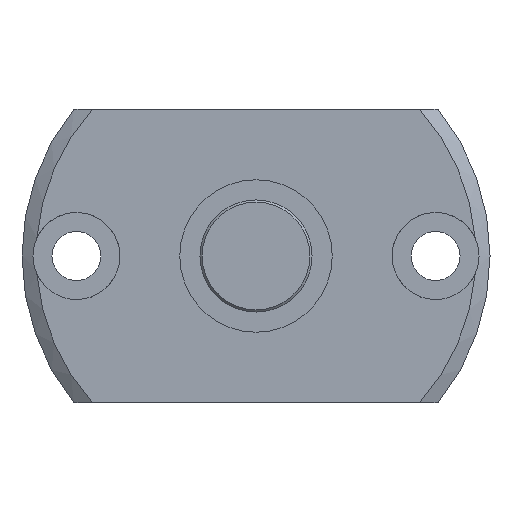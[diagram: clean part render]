
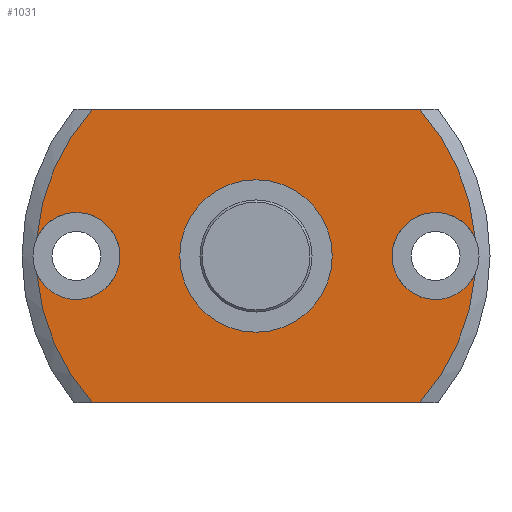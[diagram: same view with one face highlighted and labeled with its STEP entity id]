
A CAD part, left-side view. The second image highlights one B-rep face of the part: STEP entity #1031.
In plain terms, the highlighted planar face has unit normal (-1, 0, 0).
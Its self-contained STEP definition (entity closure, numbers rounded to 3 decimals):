
#38=LINE('',#1818,#88);
#39=LINE('',#1820,#89);
#88=VECTOR('',#1393,1000.);
#89=VECTOR('',#1396,1000.);
#308=ORIENTED_EDGE('',*,*,#562,.T.);
#309=ORIENTED_EDGE('',*,*,#563,.T.);
#310=ORIENTED_EDGE('',*,*,#548,.T.);
#311=ORIENTED_EDGE('',*,*,#564,.F.);
#312=ORIENTED_EDGE('',*,*,#550,.F.);
#313=ORIENTED_EDGE('',*,*,#565,.T.);
#314=ORIENTED_EDGE('',*,*,#554,.T.);
#315=ORIENTED_EDGE('',*,*,#566,.F.);
#316=ORIENTED_EDGE('',*,*,#544,.T.);
#544=EDGE_CURVE('',#670,#668,#743,.F.);
#548=EDGE_CURVE('',#669,#673,#745,.F.);
#550=EDGE_CURVE('',#674,#676,#746,.T.);
#554=EDGE_CURVE('',#675,#679,#748,.F.);
#562=EDGE_CURVE('',#687,#687,#754,.T.);
#563=EDGE_CURVE('',#668,#669,#755,.T.);
#564=EDGE_CURVE('',#676,#673,#38,.T.);
#565=EDGE_CURVE('',#674,#675,#756,.T.);
#566=EDGE_CURVE('',#670,#679,#39,.T.);
#668=VERTEX_POINT('',#1760);
#669=VERTEX_POINT('',#1761);
#670=VERTEX_POINT('',#1763);
#673=VERTEX_POINT('',#1775);
#674=VERTEX_POINT('',#1782);
#675=VERTEX_POINT('',#1783);
#676=VERTEX_POINT('',#1785);
#679=VERTEX_POINT('',#1797);
#687=VERTEX_POINT('',#1816);
#743=CIRCLE('',#1153,20.2);
#745=CIRCLE('',#1155,20.2);
#746=CIRCLE('',#1157,20.2);
#748=CIRCLE('',#1159,20.2);
#754=CIRCLE('',#1167,7.);
#755=CIRCLE('',#1168,4.);
#756=CIRCLE('',#1169,4.);
#816=EDGE_LOOP('',(#308));
#817=EDGE_LOOP('',(#309,#310,#311,#312,#313,#314,#315,#316));
#914=FACE_BOUND('',#816,.T.);
#915=FACE_BOUND('',#817,.T.);
#976=PLANE('',#1166);
#1031=ADVANCED_FACE('',(#914,#915),#976,.F.);
#1153=AXIS2_PLACEMENT_3D('',#1762,#1359,#1360);
#1155=AXIS2_PLACEMENT_3D('',#1776,#1363,#1364);
#1157=AXIS2_PLACEMENT_3D('',#1784,#1367,#1368);
#1159=AXIS2_PLACEMENT_3D('',#1798,#1371,#1372);
#1166=AXIS2_PLACEMENT_3D('',#1814,#1387,#1388);
#1167=AXIS2_PLACEMENT_3D('',#1815,#1389,#1390);
#1168=AXIS2_PLACEMENT_3D('',#1817,#1391,#1392);
#1169=AXIS2_PLACEMENT_3D('',#1819,#1394,#1395);
#1359=DIRECTION('',(1.,0.,0.));
#1360=DIRECTION('',(0.,0.,-1.));
#1363=DIRECTION('',(1.,0.,0.));
#1364=DIRECTION('',(0.,0.,-1.));
#1367=DIRECTION('',(1.,0.,0.));
#1368=DIRECTION('',(0.,0.,-1.));
#1371=DIRECTION('',(1.,0.,0.));
#1372=DIRECTION('',(0.,0.,-1.));
#1387=DIRECTION('',(1.,0.,0.));
#1388=DIRECTION('',(0.,0.,-1.));
#1389=DIRECTION('',(1.,0.,0.));
#1390=DIRECTION('',(0.,0.,-1.));
#1391=DIRECTION('',(1.,0.,0.));
#1392=DIRECTION('',(0.,0.,-1.));
#1393=DIRECTION('',(0.,-1.,0.));
#1394=DIRECTION('',(1.,0.,0.));
#1395=DIRECTION('',(0.,0.,-1.));
#1396=DIRECTION('',(0.,1.,0.));
#1760=CARTESIAN_POINT('',(0.,-20.13,-1.68));
#1761=CARTESIAN_POINT('',(0.,-20.13,1.68));
#1762=CARTESIAN_POINT('',(0.,0.,0.));
#1763=CARTESIAN_POINT('',(0.,-15.026,-13.5));
#1775=CARTESIAN_POINT('',(0.,-15.026,13.5));
#1776=CARTESIAN_POINT('',(0.,0.,0.));
#1782=CARTESIAN_POINT('',(0.,20.13,1.68));
#1783=CARTESIAN_POINT('',(0.,20.13,-1.68));
#1784=CARTESIAN_POINT('',(0.,0.,0.));
#1785=CARTESIAN_POINT('',(0.,15.026,13.5));
#1797=CARTESIAN_POINT('',(0.,15.026,-13.5));
#1798=CARTESIAN_POINT('',(0.,0.,0.));
#1814=CARTESIAN_POINT('',(0.,0.,0.));
#1815=CARTESIAN_POINT('',(0.,0.,0.));
#1816=CARTESIAN_POINT('',(0.,0.,-7.));
#1817=CARTESIAN_POINT('',(0.,-16.5,0.));
#1818=CARTESIAN_POINT('',(0.,16.733,13.5));
#1819=CARTESIAN_POINT('',(0.,16.5,0.));
#1820=CARTESIAN_POINT('',(0.,-16.733,-13.5));
